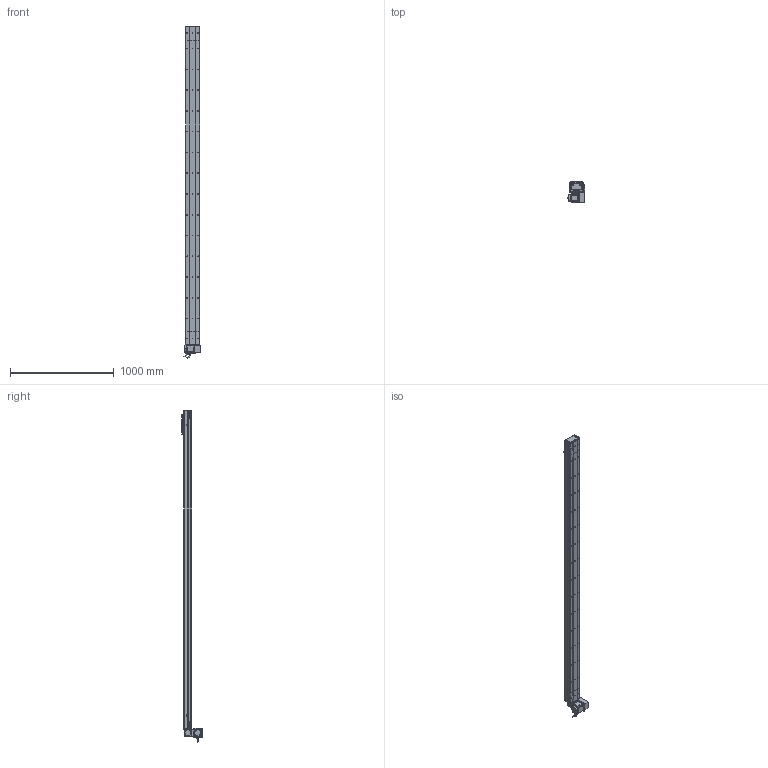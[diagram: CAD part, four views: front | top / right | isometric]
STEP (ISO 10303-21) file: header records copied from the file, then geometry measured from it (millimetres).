
FILE_DESCRIPTION (( 'STEP AP214' ), '1' );
FILE_NAME ('D14 CBH S2800 LU.STEP', '2010-06-30T07:37:26', ( 'Conseil Régional Haute-Normandie' ), ( 'Conseil Régional Haute-Normandie' ), 'SwSTEP 2.0', 'SolidWorks 2010', '' );
FILE_SCHEMA (( 'AUTOMOTIVE_DESIGN' ));
Length unit declared in the file: millimetre
Products named in the file (28): couvercle tail CBH D14; charriot inférieur D14; chariot D14; chariot supérieur D14; Conecteur2_Default; plaque de maintient CBH D14; Vis CHC M8; plaque fermeture Head D14 CBH; Support moteur Head D14 CBH; Conecteur_Default; GMB 90 70 310; corps tail  CBH d14 B; D14 CBH S2800 LU; vis CHC M5; Head D14 CBH LU; Head D14 CBH; corps Head D14 CBH; plaque de bout Head D14 CBH; vis CHC M7; couvercle Head D14 CBH; Course CBH S2800; couvercle CBH S2800; corps CBH S2800; plaque de bout tail CBH d14; Tail CBH D14 B; corps GMB 90 70 310; avant GMB 90 70 310; codeur GMB 90 70 310
Assembly tree (51 placements, depth 4):
  D14 CBH S2800 LU
    Course CBH S2800
      corps CBH S2800
      couvercle CBH S2800
    chariot D14
      vis CHC M7  x8
      chariot supérieur D14
      vis CHC M5  x4
      charriot inférieur D14
    Tail CBH D14 B
      vis CHC M7  x4
      Vis CHC M8  x2
      corps tail  CBH d14 B
      plaque de bout tail CBH d14
      plaque de maintient CBH D14
      couvercle tail CBH D14
    Head D14 CBH LU
      Head D14 CBH
        vis CHC M7  x4
        plaque de bout Head D14 CBH
        corps Head D14 CBH
        couvercle Head D14 CBH
        plaque de maintient CBH D14
        Vis CHC M8  x2
      Support moteur Head D14 CBH
      plaque fermeture Head D14 CBH  x3
      GMB 90 70 310
        avant GMB 90 70 310
        codeur GMB 90 70 310
        Conecteur_Default
        Conecteur2_Default
        corps GMB 90 70 310
Bounding box: 171.5 x 195.75 x 3195.95 mm (x, y, z)
Volume: 8621339 mm3; surface area: 2968187.6 mm2
Topology: 51 solids, 51 shells, 2516 faces, 6538 edges, 4294 vertices
Faces by surface type: plane 1371, bspline 538, cylinder 494, torus 61, cone 48, sphere 4
Entity records: 111417 total; most frequent: CARTESIAN_POINT 58526, ORIENTED_EDGE 11372, DIRECTION 8715, EDGE_CURVE 5686, VERTEX_POINT 3758, VECTOR 3733, LINE 3733, AXIS2_PLACEMENT_3D 2491
